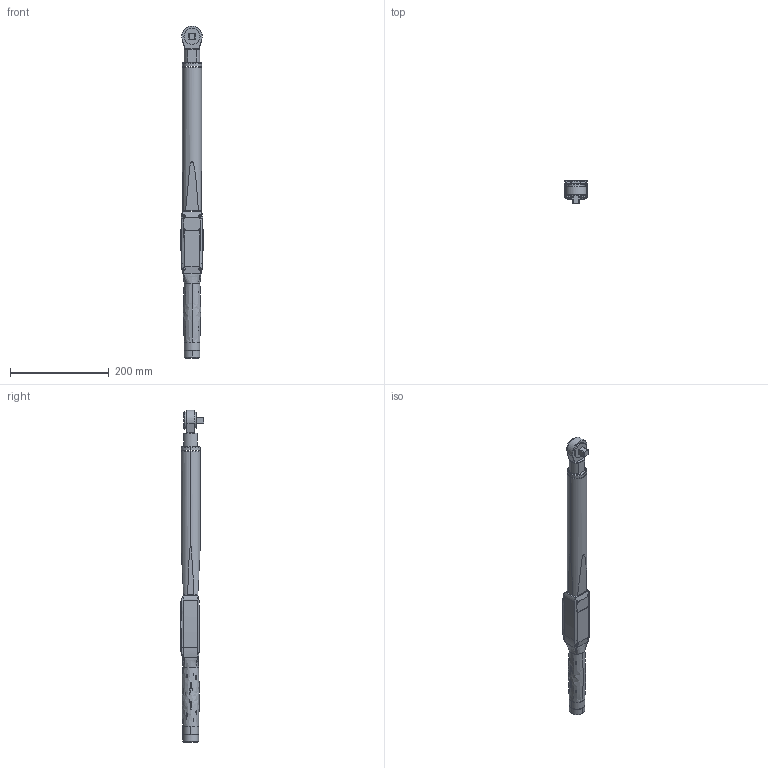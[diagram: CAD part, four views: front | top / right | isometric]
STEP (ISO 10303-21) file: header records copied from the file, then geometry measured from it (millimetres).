
FILE_DESCRIPTION((''),'2;1');
FILE_NAME('6159352120_DIM','2021-06-29T12:04:29',('S00000450'),(''),'CREO PARAMETRIC BY PTC INC, 2021072','CREO PARAMETRIC BY PTC INC, 2021072','');
FILE_SCHEMA(('AP242_MANAGED_MODEL_BASED_3D_ENGINEERING_MIM_LF { 1 0 10303 442 1 1 4 }'));
Length unit declared in the file: millimetre
Products named in the file (1): 6159352120_DIM
Bounding box: 45.16 x 47.45 x 673.68 mm (x, y, z)
Surface area: 96211.3 mm2 (no closed solid volume)
Topology: 0 solids, 63 shells, 242 faces, 784 edges, 587 vertices
Faces by surface type: plane 80, bspline 75, cylinder 55, cone 18, extrusion 8, torus 4, sphere 2
Entity records: 16441 total; most frequent: CARTESIAN_POINT 9124, ORIENTED_EDGE 1129, DIRECTION 1047, EDGE_CURVE 784, VERTEX_POINT 587, AXIS2_PLACEMENT_3D 425, B_SPLINE_CURVE_WITH_KNOTS 337, CIRCLE 266
